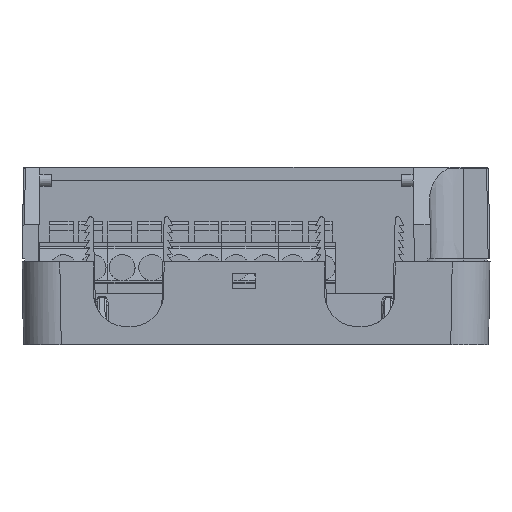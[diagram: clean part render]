
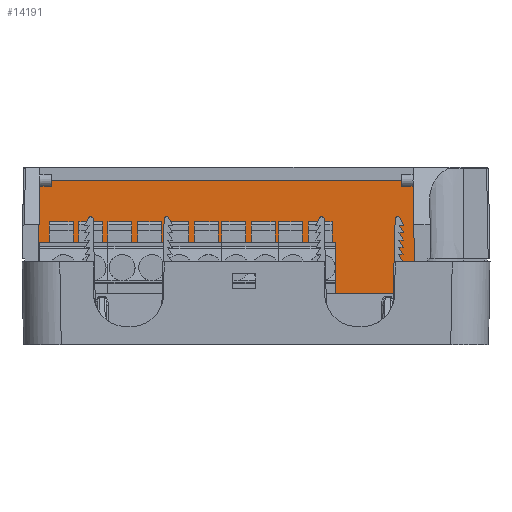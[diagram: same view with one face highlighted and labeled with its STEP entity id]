
A CAD part, left-side view. The second image highlights one B-rep face of the part: STEP entity #14191.
In plain terms, the highlighted planar face has unit normal (-1, 0, -0.018) as drawn and (1, 0, -0.017) by its records, which use the part's own axes.
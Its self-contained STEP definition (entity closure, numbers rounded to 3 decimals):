
#1140 = DIRECTION ( 'NONE',  ( 1., 0., -0.017 ) ) ;
#3741 = ORIENTED_EDGE ( 'NONE', *, *, #21921, .T. ) ;
#4014 = ORIENTED_EDGE ( 'NONE', *, *, #12528, .F. ) ;
#6308 = CARTESIAN_POINT ( 'NONE',  ( 103.16, 4.237, -5.7 ) ) ;
#6558 = VERTEX_POINT ( 'NONE', #90232 ) ;
#7117 = CARTESIAN_POINT ( 'NONE',  ( 103.5, 66., 13.8 ) ) ;
#7882 = VECTOR ( 'NONE', #16097, 1000. ) ;
#8575 = EDGE_CURVE ( 'NONE', #6558, #50204, #62626, .T. ) ;
#12528 = EDGE_CURVE ( 'NONE', #82285, #51297, #42737, .T. ) ;
#13966 = LINE ( 'NONE', #20374, #69562 ) ;
#14191 = ADVANCED_FACE ( 'NONE', ( #42576 ), #15478, .T. ) ;
#14420 = EDGE_LOOP ( 'NONE', ( #17331, #59039, #74698, #4014, #3741, #85493, #38412 ) ) ;
#15478 = PLANE ( 'NONE',  #41580 ) ;
#16097 = DIRECTION ( 'NONE',  ( 0., 1., 0. ) ) ;
#17331 = ORIENTED_EDGE ( 'NONE', *, *, #78741, .F. ) ;
#19347 = EDGE_CURVE ( 'NONE', #51297, #6558, #13966, .T. ) ;
#20099 = CARTESIAN_POINT ( 'NONE',  ( 103.519, 3.019, 14.899 ) ) ;
#20310 = LINE ( 'NONE', #84680, #75902 ) ;
#20374 = CARTESIAN_POINT ( 'NONE',  ( 103.125, 66., -7.7 ) ) ;
#20958 = CARTESIAN_POINT ( 'NONE',  ( 103.151, 4.026, -6.191 ) ) ;
#21921 = EDGE_CURVE ( 'NONE', #82285, #89665, #39390, .T. ) ;
#23445 = VERTEX_POINT ( 'NONE', #7117 ) ;
#26521 = EDGE_CURVE ( 'NONE', #89665, #33492, #48857, .T. ) ;
#27085 = EDGE_CURVE ( 'NONE', #33492, #23445, #20310, .T. ) ;
#27727 = DIRECTION ( 'NONE',  ( 0., -1., 0. ) ) ;
#28300 = CARTESIAN_POINT ( 'NONE',  ( 103.16, 4.526, -5.7 ) ) ;
#33492 = VERTEX_POINT ( 'NONE', #39810 ) ;
#36044 = CARTESIAN_POINT ( 'NONE',  ( 103.16, 4.526, -5.7 ) ) ;
#36292 = VECTOR ( 'NONE', #36680, 1000. ) ;
#36680 = DIRECTION ( 'NONE',  ( 0., 1., 0. ) ) ;
#38412 = ORIENTED_EDGE ( 'NONE', *, *, #27085, .T. ) ;
#39390 =( BOUNDED_CURVE ( )  B_SPLINE_CURVE ( 3, ( #20958, #78301, #6308, #28300 ),
 .UNSPECIFIED., .F., .F. ) 
 B_SPLINE_CURVE_WITH_KNOTS ( ( 4, 4 ),
 ( 4.73, 6.283 ),
 .UNSPECIFIED. ) 
 CURVE ( )  GEOMETRIC_REPRESENTATION_ITEM ( )  RATIONAL_B_SPLINE_CURVE ( ( 1., 0.809, 0.809, 1. ) ) 
 REPRESENTATION_ITEM ( '' )  );
#39810 = CARTESIAN_POINT ( 'NONE',  ( 103.16, 66.34, -5.7 ) ) ;
#41580 = AXIS2_PLACEMENT_3D ( 'NONE', #44722, #1140, #51965 ) ;
#42458 = CARTESIAN_POINT ( 'NONE',  ( 103.125, 4., -7.7 ) ) ;
#42576 = FACE_OUTER_BOUND ( 'NONE', #14420, .T. ) ;
#42737 = LINE ( 'NONE', #43268, #59628 ) ;
#43268 = CARTESIAN_POINT ( 'NONE',  ( 103.093, 3.969, -9.499 ) ) ;
#44722 = CARTESIAN_POINT ( 'NONE',  ( 103.5, 66., 13.8 ) ) ;
#48857 = LINE ( 'NONE', #52250, #7882 ) ;
#50204 = VERTEX_POINT ( 'NONE', #84402 ) ;
#51297 = VERTEX_POINT ( 'NONE', #42458 ) ;
#51965 = DIRECTION ( 'NONE',  ( -0.017, 0., -1. ) ) ;
#52250 = CARTESIAN_POINT ( 'NONE',  ( 103.16, 0., -5.7 ) ) ;
#55469 = LINE ( 'NONE', #80001, #36292 ) ;
#59039 = ORIENTED_EDGE ( 'NONE', *, *, #8575, .F. ) ;
#59628 = VECTOR ( 'NONE', #93848, 1000. ) ;
#62626 = LINE ( 'NONE', #20099, #64856 ) ;
#64856 = VECTOR ( 'NONE', #78085, 1000. ) ;
#69562 = VECTOR ( 'NONE', #27727, 1000. ) ;
#74698 = ORIENTED_EDGE ( 'NONE', *, *, #19347, .F. ) ;
#75902 = VECTOR ( 'NONE', #91993, 1000. ) ;
#78085 = DIRECTION ( 'NONE',  ( 0.017, 0.017, 1. ) ) ;
#78301 = CARTESIAN_POINT ( 'NONE',  ( 103.156, 4.031, -5.902 ) ) ;
#78741 = EDGE_CURVE ( 'NONE', #50204, #23445, #55469, .T. ) ;
#80001 = CARTESIAN_POINT ( 'NONE',  ( 103.5, 66., 13.8 ) ) ;
#82180 = CARTESIAN_POINT ( 'NONE',  ( 103.151, 4.026, -6.191 ) ) ;
#82285 = VERTEX_POINT ( 'NONE', #82180 ) ;
#84402 = CARTESIAN_POINT ( 'NONE',  ( 103.5, 3., 13.8 ) ) ;
#84680 = CARTESIAN_POINT ( 'NONE',  ( 103.468, 66.032, 11.995 ) ) ;
#85493 = ORIENTED_EDGE ( 'NONE', *, *, #26521, .T. ) ;
#89665 = VERTEX_POINT ( 'NONE', #36044 ) ;
#90232 = CARTESIAN_POINT ( 'NONE',  ( 103.125, 2.625, -7.7 ) ) ;
#91993 = DIRECTION ( 'NONE',  ( 0.017, -0.017, 1. ) ) ;
#93848 = DIRECTION ( 'NONE',  ( -0.017, -0.017, -1. ) ) ;
